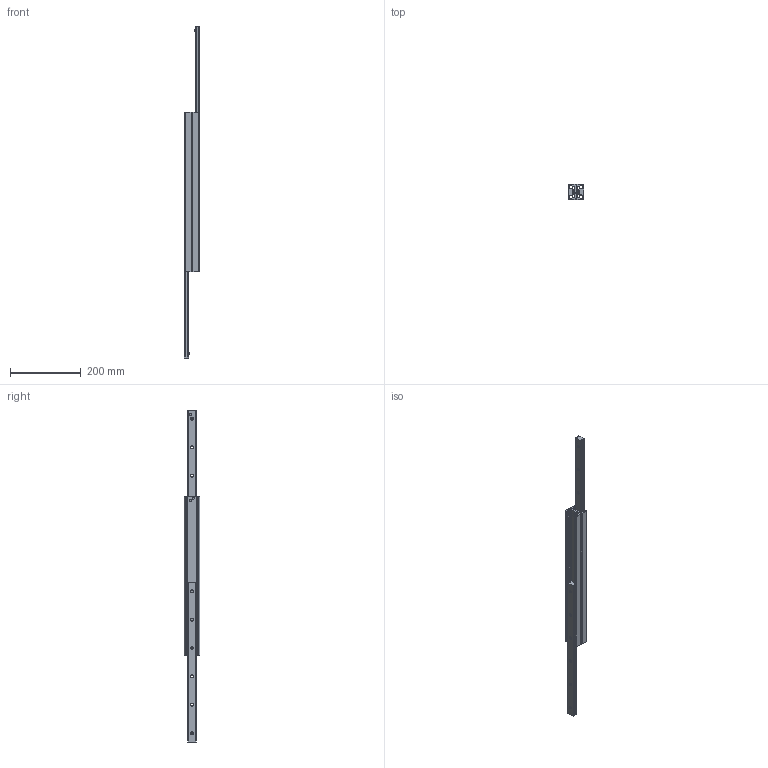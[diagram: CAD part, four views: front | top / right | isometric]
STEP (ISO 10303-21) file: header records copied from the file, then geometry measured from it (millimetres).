
FILE_DESCRIPTION( ( 'STEP AP214' ), '1' );
FILE_NAME( 'p:/temp/worker_90/temp/exporttempdir_3096_1673_K7orS/format_0/DEF43-450486.stp', '2020-03-20T19:52:27', ( 'License CC BY-ND 4.0' ), ( 'CADENAS' ), ' ', 'PARTsolutions', ' ' );
FILE_SCHEMA( ( 'AUTOMOTIVE_DESIGN { 1 0 10303 214 1 1 1 1 }' ) );
Length unit declared in the file: millimetre
Products named in the file (4): DEF43-450486; _432145048612-gf; _43214504861-ei; _432145048611-gf
Assembly tree (4 placements, depth 2):
  DEF43-450486
    _432145048612-gf
    _43214504861-ei  x2
    _432145048611-gf
Bounding box: 44 x 43 x 936 mm (x, y, z)
Volume: 556560.4 mm3; surface area: 214165.5 mm2
Topology: 4 solids, 4 shells, 188 faces, 476 edges, 308 vertices
Faces by surface type: plane 102, cylinder 58, cone 28
Full cylindrical faces by diameter (mm): 4.134 x2, 6.647 x12, 7 x2
Entity records: 5220 total; most frequent: DIRECTION 716, CARTESIAN_POINT 681, ORIENTED_EDGE 622, EDGE_CURVE 311, AXIS2_PLACEMENT_3D 260, VERTEX_POINT 225, EDGE_LOOP 212, LINE 196
